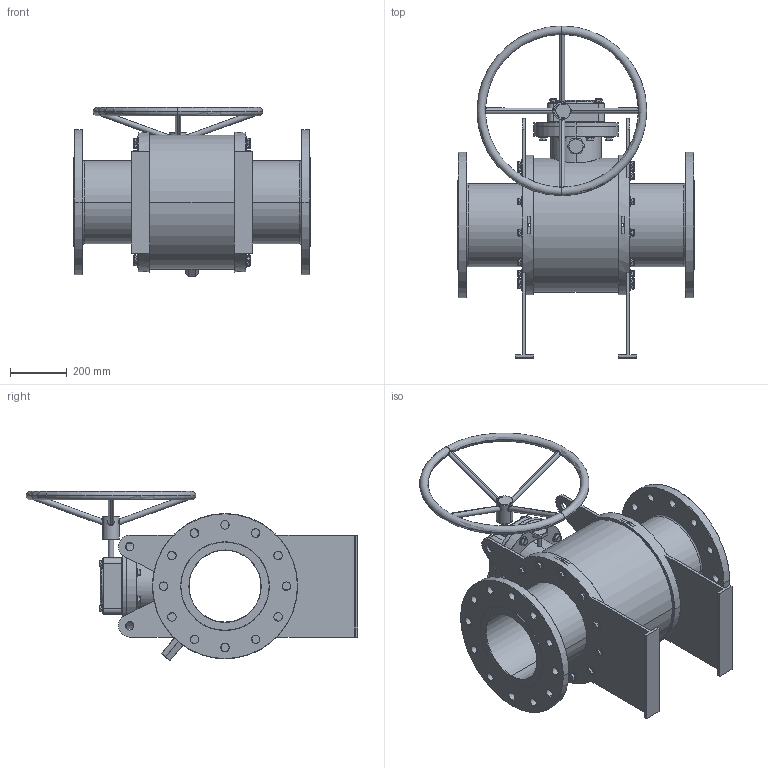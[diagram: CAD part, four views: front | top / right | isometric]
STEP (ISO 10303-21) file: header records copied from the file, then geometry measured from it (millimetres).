
FILE_DESCRIPTION (( 'STEP AP203' ), '1' );
FILE_NAME ('GB2_ANSI_900_10IN_HD.STEP', '2025-10-09T15:06:40', ( '' ), ( '' ), 'SwSTEP 2.0', 'SolidWorks 2025', '' );
FILE_SCHEMA (( 'CONFIG_CONTROL_DESIGN' ));
Length unit declared in the file: millimetre
Products named in the file (3): GB2_ANSI_2500_1500_ANSI_900_10IN; hex flange screw_am_B18.2.3.4M - Hex flange screw, M16 x 2.0 x 25 --25N; GB2_ANSI_900_10IN_HD
Assembly tree (37 placements, depth 2):
  GB2_ANSI_900_10IN_HD
    GB2_ANSI_2500_1500_ANSI_900_10IN
    hex flange screw_am_B18.2.3.4M - Hex flange screw, M16 x 2.0 x 25 --25N  x36
Bounding box: 838 x 1173.5 x 597.91 mm (x, y, z)
Volume: 78455309.5 mm3; surface area: 4050690.3 mm2
Topology: 38 solids, 38 shells, 1605 faces, 3640 edges, 2196 vertices
Faces by surface type: plane 528, cone 392, cylinder 297, bspline 286, torus 96, sphere 6
Entity records: 27325 total; most frequent: CARTESIAN_POINT 11940, ORIENTED_EDGE 2932, DIRECTION 2904, EDGE_CURVE 1466, AXIS2_PLACEMENT_3D 1110, VERTEX_POINT 934, EDGE_LOOP 736, VECTOR 684
